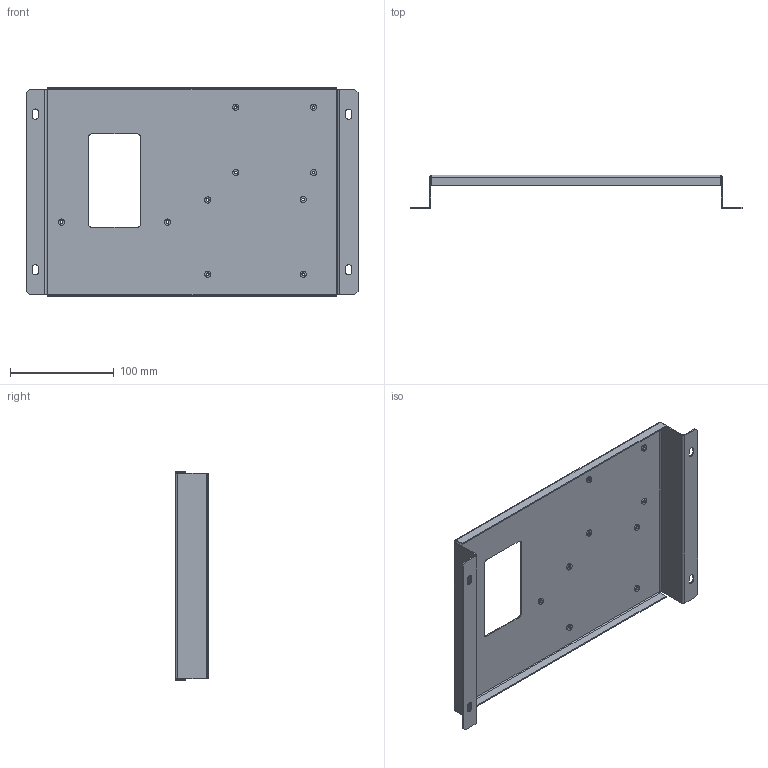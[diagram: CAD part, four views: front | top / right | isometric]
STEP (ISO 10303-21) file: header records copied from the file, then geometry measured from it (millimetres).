
FILE_DESCRIPTION (( 'STEP AP214' ), '1' );
FILE_NAME ('JYXJ-000-005-009-A 萇ァ盓殤.STEP', '2025-06-20T07:55:22', ( '' ), ( '' ), 'SwSTEP 2.0', 'SolidWorks 2020', '' );
FILE_SCHEMA (( 'AUTOMOTIVE_DESIGN' ));
Length unit declared in the file: millimetre
Products named in the file (1): JYXJ-000-005-009-A 萇ァ盓殤
Bounding box: 320 x 32.2 x 202.4 mm (x, y, z)
Volume: 91619.9 mm3; surface area: 154495.6 mm2
Topology: 1 solids, 1 shells, 136 faces, 324 edges, 200 vertices
Faces by surface type: cylinder 68, plane 68
Entity records: 4234 total; most frequent: DIRECTION 734, CARTESIAN_POINT 661, ORIENTED_EDGE 648, EDGE_CURVE 324, AXIS2_PLACEMENT_3D 273, VERTEX_POINT 200, LINE 188, VECTOR 188
